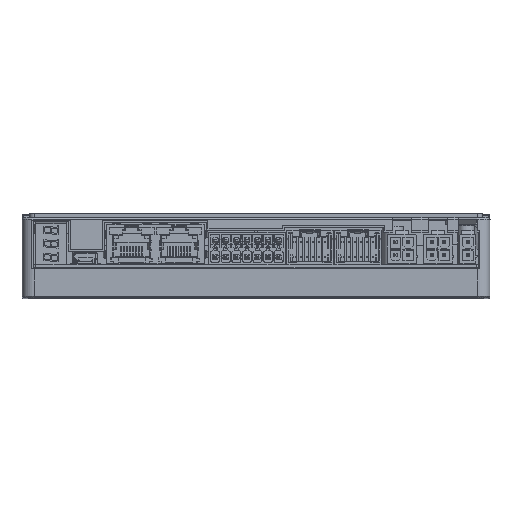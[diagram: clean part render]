
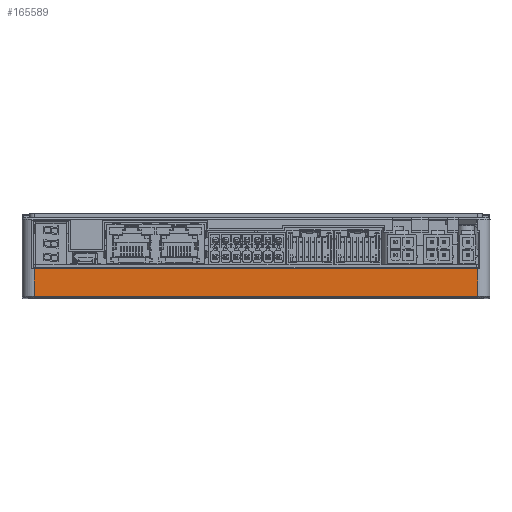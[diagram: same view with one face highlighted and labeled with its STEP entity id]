
A CAD part, top view. The second image highlights one B-rep face of the part: STEP entity #165589.
In plain terms, the highlighted planar face has unit normal (0, 0, 1).
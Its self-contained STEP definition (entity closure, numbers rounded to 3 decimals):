
#153643=DIRECTION('',(0.,1.,0.));
#153644=VECTOR('',#153643,9.2);
#153645=CARTESIAN_POINT('',(73.5,-8.5,
2.5));
#153646=LINE('',#153645,#153644);
#155064=DIRECTION('',(0.,-1.,0.));
#155065=VECTOR('',#155064,9.2);
#155066=CARTESIAN_POINT('',(-73.5,0.7,2.5));
#155067=LINE('',#155066,#155065);
#155080=DIRECTION('',(1.,0.,0.));
#155081=VECTOR('',#155080,147.);
#155082=CARTESIAN_POINT('',(-73.5,0.7,2.5));
#155083=LINE('',#155082,#155081);
#155084=DIRECTION('',(1.,0.,0.));
#155085=VECTOR('',#155084,147.);
#155086=CARTESIAN_POINT('',(-73.5,-8.5,
2.5));
#155087=LINE('',#155086,#155085);
#159656=CARTESIAN_POINT('',(-73.5,0.7,2.5));
#159657=CARTESIAN_POINT('',(73.5,0.7,2.5));
#159658=VERTEX_POINT('',#159656);
#159659=VERTEX_POINT('',#159657);
#159660=CARTESIAN_POINT('',(73.5,-8.5,
2.5));
#159661=VERTEX_POINT('',#159660);
#159662=CARTESIAN_POINT('',(-73.5,-8.5,
2.5));
#159663=VERTEX_POINT('',#159662);
#165577=CARTESIAN_POINT('',(-77.5,-15.,2.5));
#165578=DIRECTION('',(0.,0.,1.));
#165579=DIRECTION('',(0.,1.,0.));
#165580=AXIS2_PLACEMENT_3D('',#165577,#165578,#165579);
#165581=PLANE('',#165580);
#165582=ORIENTED_EDGE('',*,*,#164036,.T.);
#165583=ORIENTED_EDGE('',*,*,#163989,.F.);
#165585=ORIENTED_EDGE('',*,*,#165584,.F.);
#165586=ORIENTED_EDGE('',*,*,#165562,.F.);
#165587=EDGE_LOOP('',(#165582,#165583,#165585,#165586));
#165588=FACE_OUTER_BOUND('',#165587,.F.);
#165589=ADVANCED_FACE('',(#165588),#165581,.T.);
#163989=EDGE_CURVE('',#159661,#159659,#153646,.T.);
#164036=EDGE_CURVE('',#159658,#159659,#155083,.T.);
#165562=EDGE_CURVE('',#159658,#159663,#155067,.T.);
#165584=EDGE_CURVE('',#159663,#159661,#155087,.T.);
